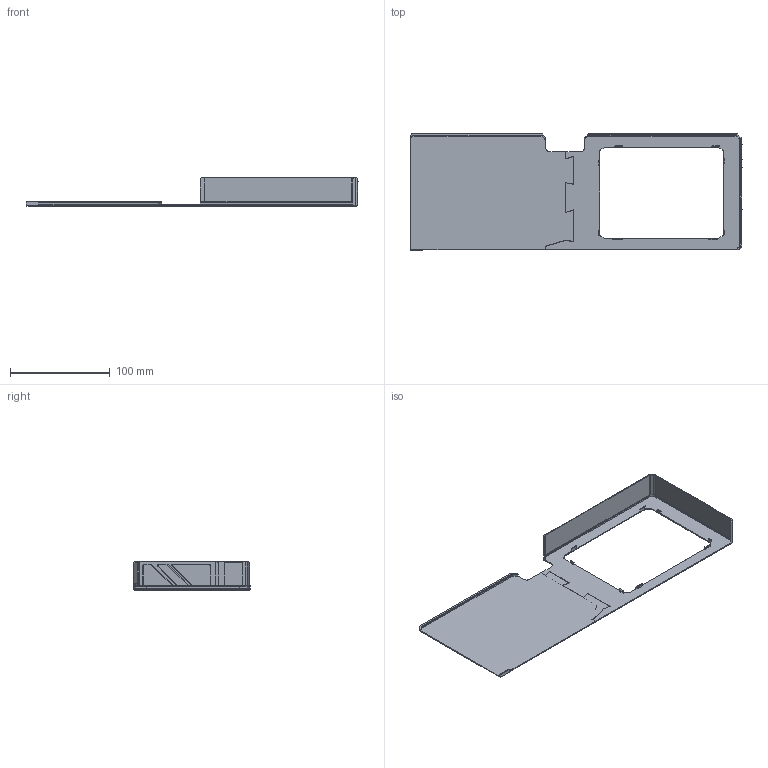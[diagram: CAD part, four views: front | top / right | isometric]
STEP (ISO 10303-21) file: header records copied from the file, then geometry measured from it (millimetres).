
FILE_DESCRIPTION((''),'2;1');
FILE_NAME('HC039-BACKPLATE','2025-02-04T15:13:57',('Kate'),(''),'CREO PARAMETRIC BY PTC INC, 2021304','CREO PARAMETRIC BY PTC INC, 2021304','');
FILE_SCHEMA(('CONFIG_CONTROL_DESIGN'));
Length unit declared in the file: millimetre
Products named in the file (1): HC039-BACKPLATE
Bounding box: 332.69 x 116.8 x 28.4 mm (x, y, z)
Volume: 60856.7 mm3; surface area: 74582.6 mm2
Topology: 2 solids, 2 shells, 795 faces, 2129 edges, 1374 vertices
Faces by surface type: bspline 795
Entity records: 28444 total; most frequent: CARTESIAN_POINT 10761, ORIENTED_EDGE 4236, DIRECTION 2483, EDGE_CURVE 2118, VECTOR 1573, LINE 1573, VERTEX_POINT 1374, EDGE_LOOP 844
